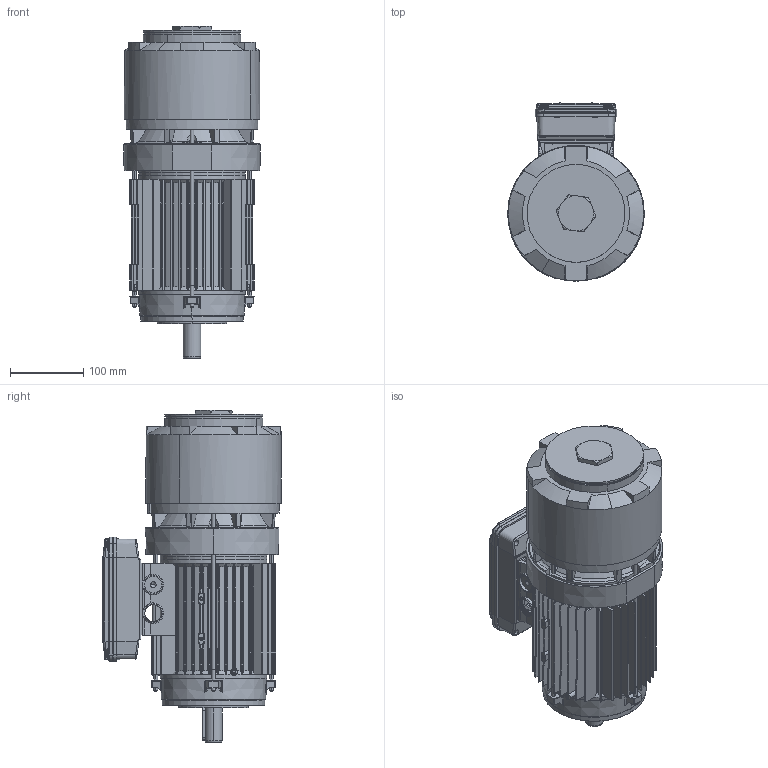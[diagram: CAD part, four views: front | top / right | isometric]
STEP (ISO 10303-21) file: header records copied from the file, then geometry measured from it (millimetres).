
FILE_DESCRIPTION (( 'STEP AP214' ), '1' );
FILE_NAME ('M08FC0012.STEP', '2020-11-03T11:25:57', ( '' ), ( '' ), 'SwSTEP 2.0', 'SolidWorks 2018', '' );
FILE_SCHEMA (( 'AUTOMOTIVE_DESIGN' ));
Length unit declared in the file: millimetre
Products named in the file (17): Scatola per Morsettiera Doppia 90-100-112 - Completa; Guarnizione Coperchio Semplice Scatola BA 90 100 112 - DDAL0094; Vite per coperchio morsettiera; Coperchio per Scatola per Morsettiera Doppia 90-100-112; Scatola per Morsettiera Doppia 90-100-112; Tirante BA 90L - DBA60094; Scudo a flangia B14 BA-BM 90 - DDAC0094; Chiavetta 90; Convogliatore con pista d''attrito P2 BAH 90 - DDGY0018; Scudo Lato Freno BA90 P1 - DDAE0094; Carcassa 90 L B5; M08FC0012; Tappo a testa Esagonale M40x1,5; Ventola BA 90 - NT; Albero BA 90 L; Tappo fissaggio per albero doppio BAH 80; Cuffia BAH 90 - DDGV0017
Assembly tree (22 placements, depth 3):
  M08FC0012
    Carcassa 90 L B5
    Scudo Lato Freno BA90 P1 - DDAE0094
    Convogliatore con pista d''attrito P2 BAH 90 - DDGY0018
    Chiavetta 90
    Scudo a flangia B14 BA-BM 90 - DDAC0094
    Tirante BA 90L - DBA60094  x4
    Scatola per Morsettiera Doppia 90-100-112 - Completa
      Scatola per Morsettiera Doppia 90-100-112
      Coperchio per Scatola per Morsettiera Doppia 90-100-112
      Vite per coperchio morsettiera  x4
      Guarnizione Coperchio Semplice Scatola BA 90 100 112 - DDAL0094
    Cuffia BAH 90 - DDGV0017
    Tappo fissaggio per albero doppio BAH 80
    Albero BA 90 L
    Ventola BA 90 - NT
    Tappo a testa Esagonale M40x1,5
Bounding box: 187 x 244 x 454 mm (x, y, z)
Volume: 2179106.1 mm3; surface area: 1079741 mm2
Topology: 25 solids, 25 shells, 3773 faces, 10083 edges, 6379 vertices
Faces by surface type: plane 1358, cylinder 1306, torus 476, cone 396, bspline 235, sphere 2
Entity records: 131734 total; most frequent: CARTESIAN_POINT 44949, ORIENTED_EDGE 18982, DIRECTION 16866, EDGE_CURVE 9491, AXIS2_PLACEMENT_3D 6533, VERTEX_POINT 6049, VECTOR 3800, LINE 3800
